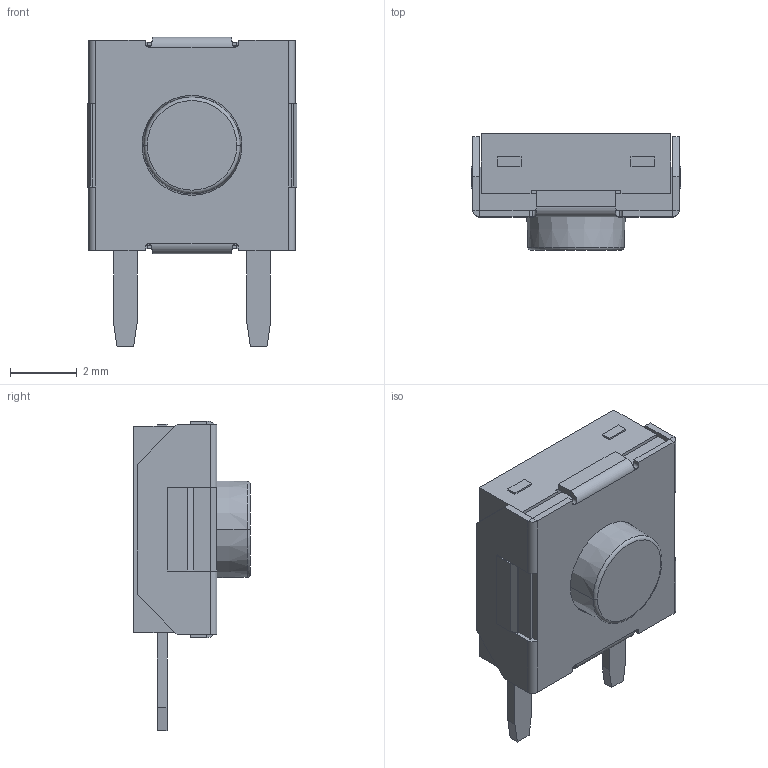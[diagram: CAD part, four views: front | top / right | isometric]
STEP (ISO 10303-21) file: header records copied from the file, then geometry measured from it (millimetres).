
FILE_DESCRIPTION((''),'2;1');
FILE_NAME('JQA6262P-C0254-01G-1-104_ASM','2026-05-23T12:03:55',('Admin'),(''),'CREO PARAMETRIC BY PTC INC, 2019224','CREO PARAMETRIC BY PTC INC, 2019224','');
FILE_SCHEMA(('AUTOMOTIVE_DESIGN { 1 0 10303 214 1 1 1 1 }'));
Length unit declared in the file: millimetre
Products named in the file (3): JQA6262P-C0254-01G-1-104_10; JQA6262P-C0254-01G-1-104_06; JQA6262P-C0254-01G-1-104_ASM
Assembly tree (2 placements, depth 2):
  JQA6262P-C0254-01G-1-104_ASM
    JQA6262P-C0254-01G-1-104_10
    JQA6262P-C0254-01G-1-104_06
Bounding box: 6.3 x 3.5 x 9.3 mm (x, y, z)
Volume: 102.2 mm3; surface area: 279 mm2
Topology: 2 solids, 2 shells, 143 faces, 353 edges, 218 vertices
Faces by surface type: plane 119, cylinder 16, bspline 4, cone 2, torus 2
Entity records: 5533 total; most frequent: CARTESIAN_POINT 1022, ORIENTED_EDGE 700, DIRECTION 683, EDGE_CURVE 350, VECTOR 307, LINE 307, PRESENTATION_STYLE_ASSIGNMENT 217, VERTEX_POINT 212
